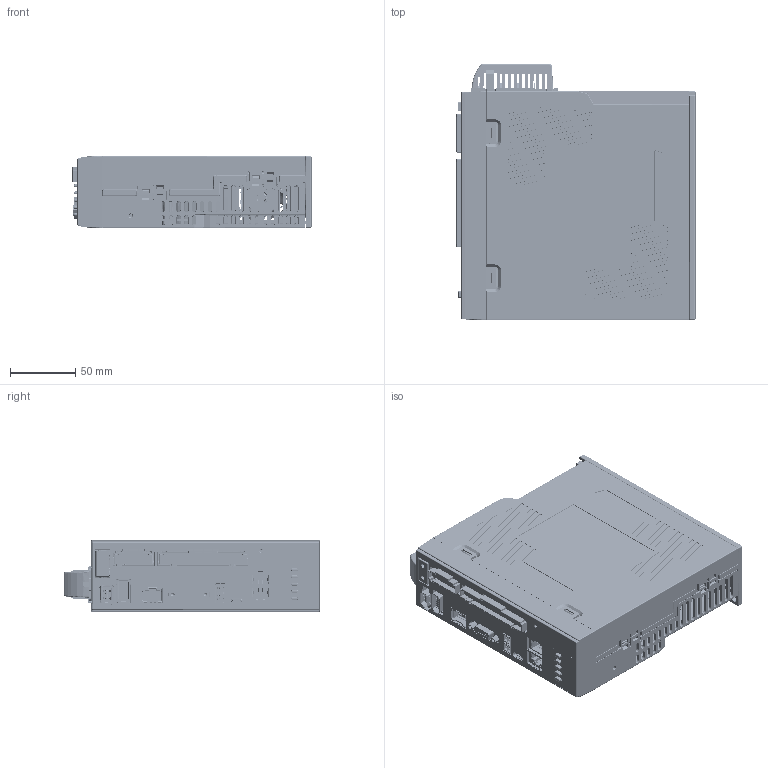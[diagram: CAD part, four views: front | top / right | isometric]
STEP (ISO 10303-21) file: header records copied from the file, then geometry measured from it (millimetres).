
FILE_DESCRIPTION((''),'2;1');
FILE_NAME('L7N_1K5T_ASM_2_ASM','2023-06-26T',('Administrator'),(''),'PRO/ENGINEER BY PARAMETRIC TECHNOLOGY CORPORATION, 2010280','PRO/ENGINEER BY PARAMETRIC TECHNOLOGY CORPORATION, 2010280','');
FILE_SCHEMA(('CONFIG_CONTROL_DESIGN','SHAPE_APPEARANCE_LAYERS_GROUPS'));
Products named in the file (40): MANIFOLD_SOLID_BREP_223_1; MANIFOLD_SOLID_BREP_274_1; MANIFOLD_SOLID_BREP_325_1; _L8EC-1500-20210930_1_1; L8EC-1500-20210930_1_ASM_ASM_AS_ASM; 9EDGRC_7_5_09P_1000A_1_1; 9EDGRC_7_5_04P_1000A_1_1; PCB_1500_P_ASM_1_ASM_ASM_ASM_1_ASM; PCB_RIGHT_1_1_1_1; PCB_R_2_1; RJ45_2X1__1_2_1; FUS606_REF_1_1; F8ER-3_5-04P_1_1; SC-MCR10S90_5_2_1; C-5788516-1-A-3D_Z_2_1; MANIFOLD_SOLID_BREP_55389_1; MANIFOLD_SOLID_BREP_55877_1; MANIFOLD_SOLID_BREP_56365_1; MANIFOLD_SOLID_BREP_56481_1; MANIFOLD_SOLID_BREP_56597_1; HDR15F_1_ASM_1_ASM; 559591230_1; PCB_RIGHT_L7N_3KT_ASM_2_ASM; PCB_L8EC1K5_ASM_4_ASM_ASM_ASM_2_ASM; L8EC1K5_SRQ_1_1; SJSK0251_1_1; SJSY0117_1_1; ASM0003_ASM_1_ASM_ASM_ASM_1_ASM; 4015_ASM_1_ASM_ASM_ASM_1_ASM; R-L7P-1K5T_3_1; L-L7P-1K5T_3_1; FSZJ-2L7EC-V14-20210929_1_1; L8EC1K5_DZJ_1_1; FF_L7N_1K5T_2; QWA_3_1_1; AWQ1_2_1_1; ASS_ASM_2_ASM_1_ASM_ASM_ASM_1_ASM; YKL_2_1; AJ_190117_____1_1_1; L7N_1K5T_ASM_2_ASM
Assembly tree (39 placements, depth 5):
  L7N_1K5T_ASM_2_ASM
    L8EC-1500-20210930_1_ASM_ASM_AS_ASM
      MANIFOLD_SOLID_BREP_223_1
      MANIFOLD_SOLID_BREP_274_1
      MANIFOLD_SOLID_BREP_325_1
      _L8EC-1500-20210930_1_1
    PCB_L8EC1K5_ASM_4_ASM_ASM_ASM_2_ASM
      PCB_1500_P_ASM_1_ASM_ASM_ASM_1_ASM
        9EDGRC_7_5_09P_1000A_1_1
        9EDGRC_7_5_04P_1000A_1_1
      PCB_RIGHT_L7N_3KT_ASM_2_ASM
        PCB_RIGHT_1_1_1_1
        PCB_R_2_1
        RJ45_2X1__1_2_1
        FUS606_REF_1_1
        F8ER-3_5-04P_1_1
        SC-MCR10S90_5_2_1
        C-5788516-1-A-3D_Z_2_1
        HDR15F_1_ASM_1_ASM
          MANIFOLD_SOLID_BREP_55389_1
          MANIFOLD_SOLID_BREP_55877_1
          MANIFOLD_SOLID_BREP_56365_1
          MANIFOLD_SOLID_BREP_56481_1
          MANIFOLD_SOLID_BREP_56597_1
        559591230_1
    L8EC1K5_SRQ_1_1
    4015_ASM_1_ASM_ASM_ASM_1_ASM
      ASM0003_ASM_1_ASM_ASM_ASM_1_ASM
        SJSK0251_1_1
        SJSY0117_1_1
    R-L7P-1K5T_3_1
    L-L7P-1K5T_3_1
    FSZJ-2L7EC-V14-20210929_1_1
    L8EC1K5_DZJ_1_1
    FF_L7N_1K5T_2
    ASS_ASM_2_ASM_1_ASM_ASM_ASM_1_ASM
      QWA_3_1_1
      AWQ1_2_1_1
    YKL_2_1
    AJ_190117_____1_1_1
Bounding box: 182.8 x 196.03 x 55.1 mm (x, y, z)
Volume: 264078.5 mm3; surface area: 462301.8 mm2
Topology: 28 solids, 64 shells, 10084 faces, 28048 edges, 18020 vertices
Faces by surface type: plane 6202, cylinder 2132, bspline 789, cone 554, torus 201, sphere 177, extrusion 27, revolution 2
Entity records: 423013 total; most frequent: CARTESIAN_POINT 108778, ORIENTED_EDGE 55212, DIRECTION 48462, EDGE_CURVE 27780, VECTOR 19064, LINE 19037, VERTEX_POINT 18020, AXIS2_PLACEMENT_3D 14698
